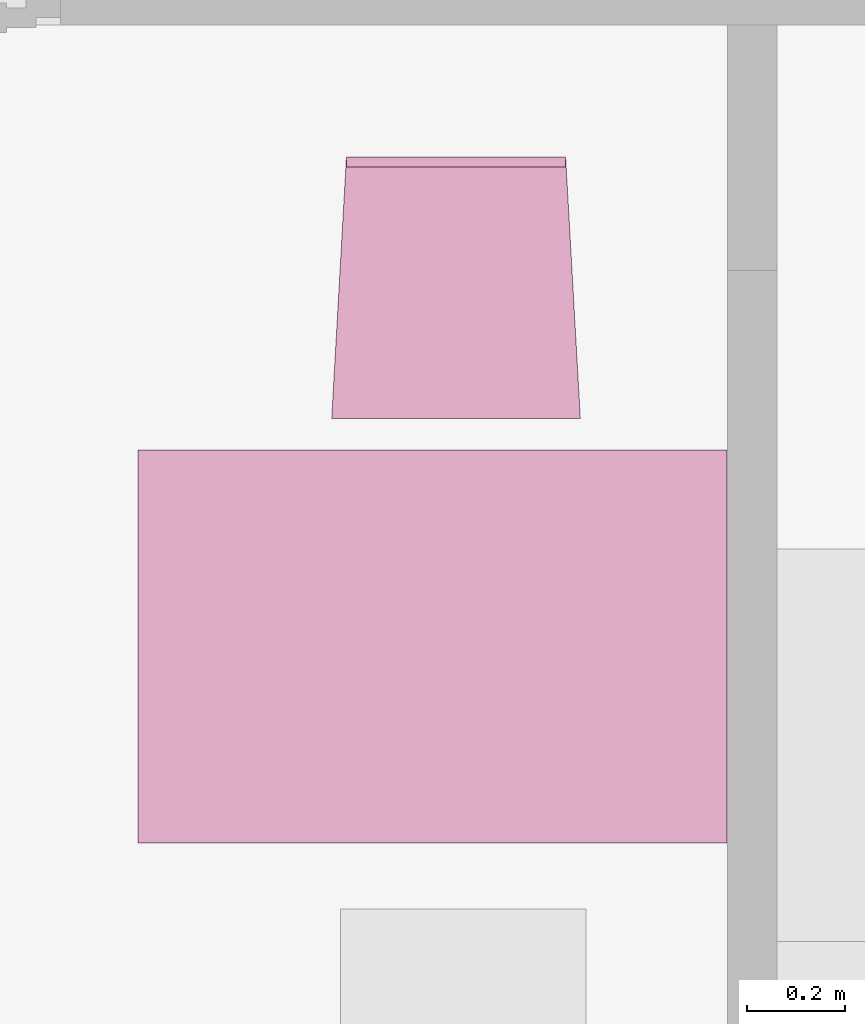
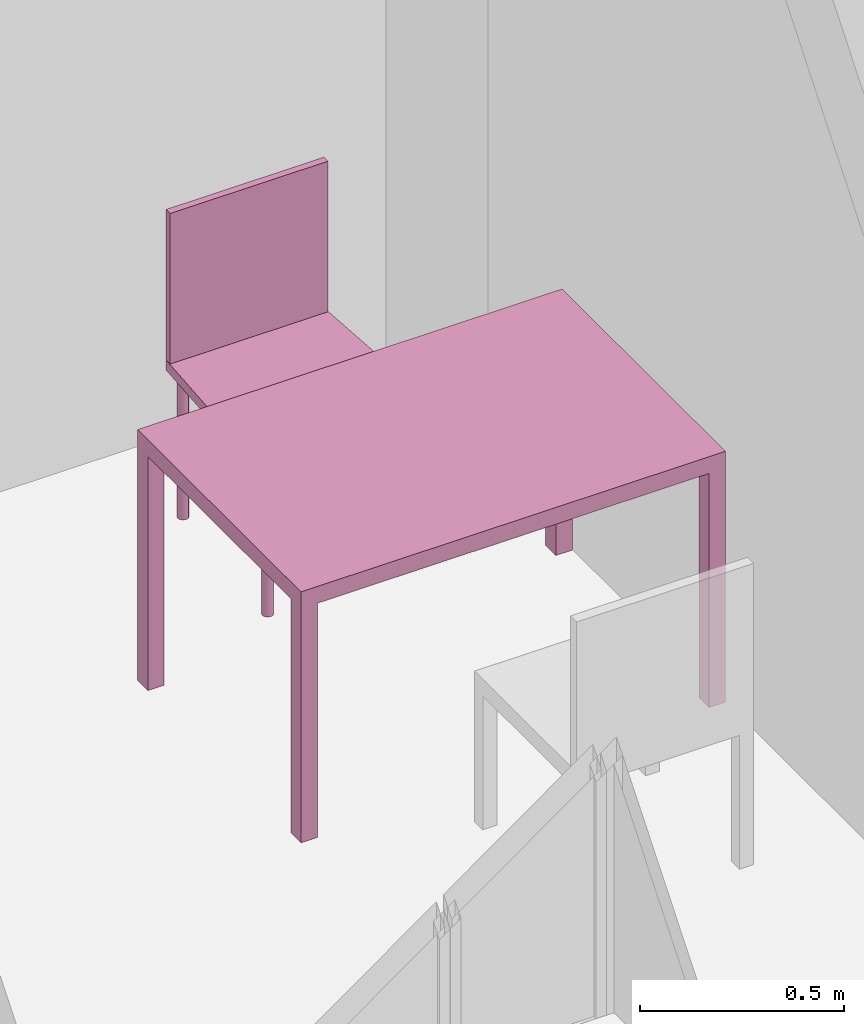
"""IFC4 building model written with IfcOpenShell, lengths in metres."""

from ifc_helpers import new_model, entity, si_unit, converted_unit, derived_unit, frame, origin, place, context, subcontext, project, spatial, faceted_brep, element, save


model = new_model("IFC4")

# Units and contexts
model_context = context("Model", 3, precision=1e-05, world=origin())
body_context = subcontext(model_context, "Body", "Model", "MODEL_VIEW")
ifc_project = project(units=[si_unit("LENGTHUNIT", "METRE"), si_unit("AREAUNIT", "SQUARE_METRE"), si_unit("VOLUMEUNIT", "CUBIC_METRE"), si_unit("MASSUNIT", "GRAM", prefix="KILO"), converted_unit("PLANEANGLEUNIT", "DEGREE", entity("IfcPlaneAngleMeasure", 0.0174532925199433), si_unit("PLANEANGLEUNIT", "RADIAN"), dimensions=[0, 0, 0, 0, 0, 0, 0]), derived_unit("THERMALTRANSMITTANCEUNIT", [(si_unit("POWERUNIT", "WATT"), 1), (si_unit("THERMODYNAMICTEMPERATUREUNIT", "KELVIN"), -1), (si_unit("LENGTHUNIT", "METRE"), -2)]), derived_unit("VOLUMETRICFLOWRATEUNIT", [(si_unit("LENGTHUNIT", "METRE"), 3), (converted_unit("TIMEUNIT", "hour", entity("IfcTimeMeasure", 3600.0), si_unit("TIMEUNIT", "SECOND"), dimensions=[0, 0, 1, 0, 0, 0, 0]), -1), (si_unit("LENGTHUNIT", "METRE"), -1)])], contexts=[model_context])

# Building, storeys
building_placement = place(None, origin())
building = spatial("IfcBuilding", under=ifc_project, at=building_placement, Name="HABITATGE PLURIFAMILIAR", CompositionType="ELEMENT")
storey_1_placement = place(building_placement, frame((0.0, 0.0, 6.25)))
storey_1 = spatial("IfcBuildingStorey", under=building, at=storey_1_placement, Name="PLANTA PRIMERA", CompositionType="ELEMENT", Elevation=6.25)
storey_2_placement = place(storey_1_placement, frame((0.0, 0.0, 3.35)))
storey_2 = spatial("IfcBuildingStorey", under=storey_1, at=storey_2_placement, Name="NOU", CompositionType="PARTIAL")

# Furniture
furniture_1_placement = place(storey_2_placement, frame((407.035747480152, 14.7436930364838, -3.35)))
element("IfcFurniture", 1, at=furniture_1_placement, inside=storey_2, Name="Taula 120X80_P1", context=body_context, shape_type="Brep", body=[
    faceted_brep([(0.0464285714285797, 0.0500000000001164, 0.0), (0.0, 0.0500000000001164, 0.0), (0.0, 0.0, 0.0), (0.0464285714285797, 0.0, 0.0), (0.0464285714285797, 0.0, 0.7), (0.0, 0.0, 0.7), (0.0, 0.0500000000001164, 0.7), (0.0464285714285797, 0.0500000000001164, 0.7)], [[[0, 1, 2, 3]], [[4, 5, 6, 7]], [[3, 4, 7, 0]], [[2, 5, 4, 3]], [[1, 6, 5, 2]], [[0, 7, 6, 1]]], orient=[[False], [False], [False], [False], [False], [False]]),
    faceted_brep([(0.0464285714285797, 0.800069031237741, 0.0), (0.0, 0.800069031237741, 0.0), (0.0, 0.750069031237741, 0.0), (0.0464285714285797, 0.750069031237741, 0.0), (0.0464285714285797, 0.750069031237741, 0.7), (0.0, 0.750069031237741, 0.7), (0.0, 0.800069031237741, 0.7), (0.0464285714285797, 0.800069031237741, 0.7)], [[[0, 1, 2, 3]], [[4, 5, 6, 7]], [[3, 4, 7, 0]], [[2, 5, 4, 3]], [[1, 6, 5, 2]], [[0, 7, 6, 1]]], orient=[[False], [False], [False], [False], [False], [False]]),
    faceted_brep([(1.2, 0.05, 0.0), (1.15357142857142, 0.05, 0.0), (1.15357142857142, 0.0, 0.0), (1.2, 0.0, 0.0), (1.2, 0.0, 0.7), (1.15357142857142, 0.0, 0.7), (1.15357142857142, 0.05, 0.7), (1.2, 0.05, 0.7)], [[[0, 1, 2, 3]], [[4, 5, 6, 7]], [[3, 4, 7, 0]], [[2, 5, 4, 3]], [[1, 6, 5, 2]], [[0, 7, 6, 1]]], orient=[[False], [False], [False], [False], [False], [False]]),
    faceted_brep([(1.2, 0.800069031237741, 0.0), (1.15357142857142, 0.800069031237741, 0.0), (1.15357142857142, 0.750069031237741, 0.0), (1.2, 0.750069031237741, 0.0), (1.2, 0.750069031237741, 0.7), (1.15357142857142, 0.750069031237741, 0.7), (1.15357142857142, 0.800069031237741, 0.7), (1.2, 0.800069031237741, 0.7)], [[[0, 1, 2, 3]], [[4, 5, 6, 7]], [[3, 4, 7, 0]], [[2, 5, 4, 3]], [[1, 6, 5, 2]], [[0, 7, 6, 1]]], orient=[[False], [False], [False], [False], [False], [False]]),
    faceted_brep([(1.2, 0.800069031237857, 0.7), (0.0, 0.800069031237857, 0.7), (0.0, 0.0, 0.7), (1.2, 0.0, 0.7), (1.2, 0.0, 0.75), (0.0, 0.0, 0.75), (0.0, 0.800069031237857, 0.75), (1.2, 0.800069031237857, 0.75)], [[[0, 1, 2, 3]], [[4, 5, 6, 7]], [[3, 4, 7, 0]], [[2, 5, 4, 3]], [[1, 6, 5, 2]], [[0, 7, 6, 1]]], orient=[[False], [False], [False], [False], [False], [False]]),
])
furniture_2_placement = place(storey_2_placement, frame((407.430666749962, 15.6079035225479, -3.35114412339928)))
element("IfcFurniture", 2, at=furniture_2_placement, inside=storey_2, Name="Cadira confient_P1", context=body_context, shape_type="Brep", body=[
    faceted_brep([(0.00928777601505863, 0.0250324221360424, 0.0), (0.0095259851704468, 0.0224394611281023, 0.0), (0.0102108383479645, 0.0199272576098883, 0.0), (0.011321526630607, 0.0175721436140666, 0.0), (0.0128243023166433, 0.0154456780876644, 0.0), (0.0146735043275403, 0.0136124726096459, 0.0), (0.016812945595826, 0.0121282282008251, 0.0), (0.0191776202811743, 0.0110380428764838, 0.0), (0.0216956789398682, 0.0103750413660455, 0.0), (0.0242906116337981, 0.0101593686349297, 0.0), (0.0268835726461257, 0.0103975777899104, 0.0), (0.0293957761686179, 0.0110824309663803, 0.0), (0.0317508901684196, 0.012193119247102, 0.0), (0.0338773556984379, 0.0136958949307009, 0.0), (0.035710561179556, 0.0155450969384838, 0.0), (0.0371948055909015, 0.0176845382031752, 0.0), (0.0382849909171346, 0.0200492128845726, 0.0), (0.0389479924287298, 0.0225672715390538, 0.0), (0.0391636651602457, 0.0251622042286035, 0.0), (0.0389254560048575, 0.0277551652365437, 0.0), (0.0382406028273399, 0.0302673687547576, 0.0), (0.0371299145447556, 0.0326224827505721, 0.0), (0.0356271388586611, 0.0347489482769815, 0.0), (0.0337779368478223, 0.0365821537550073, 0.0), (0.0316384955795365, 0.0380663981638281, 0.0), (0.02927382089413, 0.0391565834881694, 0.0), (0.0267557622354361, 0.0398195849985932, 0.0), (0.0241608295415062, 0.0400352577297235, 0.0), (0.0215678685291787, 0.0397970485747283, 0.0), (0.0190556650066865, 0.0391121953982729, 0.0), (0.016700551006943, 0.0380015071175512, 0.0), (0.0145740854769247, 0.0364987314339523, 0.0), (0.0127408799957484, 0.0346495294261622, 0.0), (0.011256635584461, 0.0325100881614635, 0.0), (0.0101664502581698, 0.0301454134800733, 0.0), (0.00950344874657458, 0.0276273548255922, 0.0), (0.00928777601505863, 0.0250324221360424, 0.448281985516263), (0.00950344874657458, 0.0276273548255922, 0.448281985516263), (0.0101664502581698, 0.0301454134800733, 0.448281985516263), (0.011256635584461, 0.0325100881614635, 0.448281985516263), (0.0127408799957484, 0.0346495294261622, 0.448281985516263), (0.0145740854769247, 0.0364987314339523, 0.448281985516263), (0.016700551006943, 0.0380015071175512, 0.448281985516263), (0.0190556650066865, 0.0391121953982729, 0.448281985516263), (0.0215678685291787, 0.0397970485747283, 0.448281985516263), (0.0241608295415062, 0.0400352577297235, 0.448281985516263), (0.0267557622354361, 0.0398195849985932, 0.448281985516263), (0.02927382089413, 0.0391565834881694, 0.448281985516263), (0.0316384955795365, 0.0380663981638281, 0.448281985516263), (0.0337779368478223, 0.0365821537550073, 0.448281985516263), (0.0356271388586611, 0.0347489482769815, 0.448281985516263), (0.0371299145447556, 0.0326224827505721, 0.448281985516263), (0.0382406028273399, 0.0302673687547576, 0.448281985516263), (0.0389254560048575, 0.0277551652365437, 0.448281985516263), (0.0391636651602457, 0.0251622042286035, 0.448281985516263), (0.0389479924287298, 0.0225672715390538, 0.448281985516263), (0.0382849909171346, 0.0200492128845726, 0.448281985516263), (0.0371948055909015, 0.0176845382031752, 0.448281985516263), (0.035710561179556, 0.0155450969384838, 0.448281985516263), (0.0338773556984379, 0.0136958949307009, 0.448281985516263), (0.0317508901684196, 0.012193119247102, 0.448281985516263), (0.0293957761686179, 0.0110824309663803, 0.448281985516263), (0.0268835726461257, 0.0103975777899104, 0.448281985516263), (0.0242906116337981, 0.0101593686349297, 0.448281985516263), (0.0216956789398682, 0.0103750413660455, 0.448281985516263), (0.0191776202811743, 0.0110380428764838, 0.448281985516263), (0.016812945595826, 0.0121282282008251, 0.448281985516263), (0.0146735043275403, 0.0136124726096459, 0.448281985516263), (0.0128243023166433, 0.0154456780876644, 0.448281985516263), (0.011321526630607, 0.0175721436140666, 0.448281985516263), (0.0102108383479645, 0.0199272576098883, 0.448281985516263), (0.0095259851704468, 0.0224394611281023, 0.448281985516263)], [[[0, 1, 2, 3, 4, 5, 6, 7, 8, 9, 10, 11, 12, 13, 14, 15, 16, 17, 18, 19, 20, 21, 22, 23, 24, 25, 26, 27, 28, 29, 30, 31, 32, 33, 34, 35]], [[36, 37, 38, 39, 40, 41, 42, 43, 44, 45, 46, 47, 48, 49, 50, 51, 52, 53, 54, 55, 56, 57, 58, 59, 60, 61, 62, 63, 64, 65, 66, 67, 68, 69, 70, 71]], [[35, 37, 36, 0]], [[34, 38, 37, 35]], [[33, 39, 38, 34]], [[32, 40, 39, 33]], [[31, 41, 40, 32]], [[30, 42, 41, 31]], [[29, 43, 42, 30]], [[28, 44, 43, 29]], [[27, 45, 44, 28]], [[26, 46, 45, 27]], [[25, 47, 46, 26]], [[24, 48, 47, 25]], [[23, 49, 48, 24]], [[22, 50, 49, 23]], [[21, 51, 50, 22]], [[20, 52, 51, 21]], [[19, 53, 52, 20]], [[18, 54, 53, 19]], [[17, 55, 54, 18]], [[16, 56, 55, 17]], [[15, 57, 56, 16]], [[14, 58, 57, 15]], [[13, 59, 58, 14]], [[12, 60, 59, 13]], [[11, 61, 60, 12]], [[10, 62, 61, 11]], [[9, 63, 62, 10]], [[8, 64, 63, 9]], [[7, 65, 64, 8]], [[6, 66, 65, 7]], [[5, 67, 66, 6]], [[4, 68, 67, 5]], [[3, 69, 68, 4]], [[2, 70, 69, 3]], [[1, 71, 70, 2]], [[0, 36, 71, 1]]], orient=[[False], [False], [False], [False], [False], [False], [False], [False], [False], [False], [False], [False], [False], [False], [False], [False], [False], [False], [False], [False], [False], [False], [False], [False], [False], [False], [False], [False], [False], [False], [False], [False], [False], [False], [False], [False], [False], [False]]),
    faceted_brep([(0.0369257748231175, 0.487439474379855, 0.0), (0.0371639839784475, 0.484846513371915, 0.0), (0.0378488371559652, 0.482334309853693, 0.0), (0.0389595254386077, 0.479979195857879, 0.0), (0.040462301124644, 0.477852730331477, 0.0), (0.042311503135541, 0.476019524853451, 0.0), (0.0444509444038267, 0.47453528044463, 0.0), (0.046815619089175, 0.473445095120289, 0.0), (0.0493336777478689, 0.472782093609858, 0.0), (0.0519286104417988, 0.472566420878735, 0.0), (0.0545215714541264, 0.47280463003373, 0.0), (0.0570337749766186, 0.473489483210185, 0.0), (0.0593888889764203, 0.474600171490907, 0.0), (0.0615153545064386, 0.476102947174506, 0.0), (0.0633485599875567, 0.477952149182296, 0.0), (0.0648328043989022, 0.480091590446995, 0.0), (0.0659229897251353, 0.482456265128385, 0.0), (0.0665859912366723, 0.484974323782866, 0.0), (0.0668016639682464, 0.487569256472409, 0.0), (0.0665634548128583, 0.490162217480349, 0.0), (0.0658786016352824, 0.49267442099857, 0.0), (0.0647679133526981, 0.495029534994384, 0.0), (0.0632651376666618, 0.497156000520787, 0.0), (0.0614159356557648, 0.498989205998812, 0.0), (0.059276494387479, 0.500473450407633, 0.0), (0.0569118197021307, 0.501563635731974, 0.0), (0.0543937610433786, 0.502226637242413, 0.0), (0.0517988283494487, 0.502442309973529, 0.0), (0.0492058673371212, 0.502204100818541, 0.0), (0.0466936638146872, 0.501519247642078, 0.0), (0.0443385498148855, 0.500408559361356, 0.0), (0.0422120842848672, 0.498905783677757, 0.0), (0.0403788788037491, 0.497056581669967, 0.0), (0.0388946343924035, 0.494917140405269, 0.0), (0.0378044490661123, 0.492552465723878, 0.0), (0.0371414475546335, 0.490034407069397, 0.0), (0.0369257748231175, 0.487439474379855, 0.448281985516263), (0.0371414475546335, 0.490034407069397, 0.448281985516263), (0.0378044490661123, 0.492552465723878, 0.448281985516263), (0.0388946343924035, 0.494917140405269, 0.448281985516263), (0.0403788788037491, 0.497056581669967, 0.448281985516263), (0.0422120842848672, 0.498905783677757, 0.448281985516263), (0.0443385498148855, 0.500408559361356, 0.448281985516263), (0.0466936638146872, 0.501519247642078, 0.448281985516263), (0.0492058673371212, 0.502204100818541, 0.448281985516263), (0.0517988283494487, 0.502442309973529, 0.448281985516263), (0.0543937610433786, 0.502226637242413, 0.448281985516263), (0.0569118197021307, 0.501563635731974, 0.448281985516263), (0.059276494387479, 0.500473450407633, 0.448281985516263), (0.0614159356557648, 0.498989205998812, 0.448281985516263), (0.0632651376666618, 0.497156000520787, 0.448281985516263), (0.0647679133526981, 0.495029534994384, 0.448281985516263), (0.0658786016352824, 0.49267442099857, 0.448281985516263), (0.0665634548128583, 0.490162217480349, 0.448281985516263), (0.0668016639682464, 0.487569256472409, 0.448281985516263), (0.0665859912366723, 0.484974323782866, 0.448281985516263), (0.0659229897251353, 0.482456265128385, 0.448281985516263), (0.0648328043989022, 0.480091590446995, 0.448281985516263), (0.0633485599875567, 0.477952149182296, 0.448281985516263), (0.0615153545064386, 0.476102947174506, 0.448281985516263), (0.0593888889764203, 0.474600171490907, 0.448281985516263), (0.0570337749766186, 0.473489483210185, 0.448281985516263), (0.0545215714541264, 0.47280463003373, 0.448281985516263), (0.0519286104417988, 0.472566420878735, 0.448281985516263), (0.0493336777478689, 0.472782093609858, 0.448281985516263), (0.046815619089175, 0.473445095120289, 0.448281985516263), (0.0444509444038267, 0.47453528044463, 0.448281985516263), (0.042311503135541, 0.476019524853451, 0.448281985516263), (0.040462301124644, 0.477852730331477, 0.448281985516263), (0.0389595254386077, 0.479979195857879, 0.448281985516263), (0.0378488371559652, 0.482334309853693, 0.448281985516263), (0.0371639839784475, 0.484846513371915, 0.448281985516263)], [[[0, 1, 2, 3, 4, 5, 6, 7, 8, 9, 10, 11, 12, 13, 14, 15, 16, 17, 18, 19, 20, 21, 22, 23, 24, 25, 26, 27, 28, 29, 30, 31, 32, 33, 34, 35]], [[36, 37, 38, 39, 40, 41, 42, 43, 44, 45, 46, 47, 48, 49, 50, 51, 52, 53, 54, 55, 56, 57, 58, 59, 60, 61, 62, 63, 64, 65, 66, 67, 68, 69, 70, 71]], [[35, 37, 36, 0]], [[34, 38, 37, 35]], [[33, 39, 38, 34]], [[32, 40, 39, 33]], [[31, 41, 40, 32]], [[30, 42, 41, 31]], [[29, 43, 42, 30]], [[28, 44, 43, 29]], [[27, 45, 44, 28]], [[26, 46, 45, 27]], [[25, 47, 46, 26]], [[24, 48, 47, 25]], [[23, 49, 48, 24]], [[22, 50, 49, 23]], [[21, 51, 50, 22]], [[20, 52, 51, 21]], [[19, 53, 52, 20]], [[18, 54, 53, 19]], [[17, 55, 54, 18]], [[16, 56, 55, 17]], [[15, 57, 56, 16]], [[14, 58, 57, 15]], [[13, 59, 58, 14]], [[12, 60, 59, 13]], [[11, 61, 60, 12]], [[10, 62, 61, 11]], [[9, 63, 62, 10]], [[8, 64, 63, 9]], [[7, 65, 64, 8]], [[6, 66, 65, 7]], [[5, 67, 66, 6]], [[4, 68, 67, 5]], [[3, 69, 68, 4]], [[2, 70, 69, 3]], [[1, 71, 70, 2]], [[0, 36, 71, 1]]], orient=[[False], [False], [False], [False], [False], [False], [False], [False], [False], [False], [False], [False], [False], [False], [False], [False], [False], [False], [False], [False], [False], [False], [False], [False], [False], [False], [False], [False], [False], [False], [False], [False], [False], [False], [False], [False], [False], [False]]),
    faceted_brep([(0.469287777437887, 0.0250324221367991, 0.0), (0.469525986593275, 0.022439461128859, 0.0), (0.470210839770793, 0.0199272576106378, 0.0), (0.471321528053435, 0.0175721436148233, 0.0), (0.472824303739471, 0.0154456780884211, 0.0), (0.474673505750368, 0.0136124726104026, 0.0), (0.476812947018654, 0.0121282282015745, 0.0), (0.479177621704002, 0.0110380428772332, 0.0), (0.481695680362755, 0.0103750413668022, 0.0), (0.484290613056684, 0.0101593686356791, 0.0), (0.486883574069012, 0.0103975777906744, 0.0), (0.489395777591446, 0.0110824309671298, 0.0), (0.491750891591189, 0.0121931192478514, 0.0), (0.493877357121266, 0.0136958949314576, 0.0), (0.495710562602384, 0.0155450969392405, 0.0), (0.49719480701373, 0.0176845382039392, 0.0), (0.498284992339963, 0.0200492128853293, 0.0), (0.498947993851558, 0.0225672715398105, 0.0), (0.499163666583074, 0.0251622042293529, 0.0), (0.498925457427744, 0.0277551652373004, 0.0), (0.498240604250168, 0.0302673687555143, 0.0), (0.497129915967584, 0.0326224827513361, 0.0), (0.495627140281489, 0.0347489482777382, 0.0), (0.49377793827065, 0.0365821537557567, 0.0), (0.491638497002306, 0.0380663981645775, 0.0), (0.489273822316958, 0.0391565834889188, 0.0), (0.486755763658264, 0.0398195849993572, 0.0), (0.484160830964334, 0.040035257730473, 0.0), (0.481567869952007, 0.039797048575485, 0.0), (0.479055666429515, 0.0391121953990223, 0.0), (0.476700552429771, 0.0380015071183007, 0.0), (0.474574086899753, 0.0364987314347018, 0.0), (0.472740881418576, 0.0346495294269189, 0.0), (0.471256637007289, 0.0325100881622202, 0.0), (0.470166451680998, 0.0301454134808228, 0.0), (0.469503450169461, 0.0276273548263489, 0.0), (0.469287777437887, 0.0250324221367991, 0.448281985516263), (0.469503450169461, 0.0276273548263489, 0.448281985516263), (0.470166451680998, 0.0301454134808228, 0.448281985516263), (0.471256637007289, 0.0325100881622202, 0.448281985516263), (0.472740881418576, 0.0346495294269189, 0.448281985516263), (0.474574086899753, 0.0364987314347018, 0.448281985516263), (0.476700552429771, 0.0380015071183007, 0.448281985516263), (0.479055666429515, 0.0391121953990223, 0.448281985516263), (0.481567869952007, 0.039797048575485, 0.448281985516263), (0.484160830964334, 0.040035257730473, 0.448281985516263), (0.486755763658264, 0.0398195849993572, 0.448281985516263), (0.489273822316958, 0.0391565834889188, 0.448281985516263), (0.491638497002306, 0.0380663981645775, 0.448281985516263), (0.49377793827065, 0.0365821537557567, 0.448281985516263), (0.495627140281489, 0.0347489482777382, 0.448281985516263), (0.497129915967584, 0.0326224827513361, 0.448281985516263), (0.498240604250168, 0.0302673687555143, 0.448281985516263), (0.498925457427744, 0.0277551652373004, 0.448281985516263), (0.499163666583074, 0.0251622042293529, 0.448281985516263), (0.498947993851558, 0.0225672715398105, 0.448281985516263), (0.498284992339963, 0.0200492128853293, 0.448281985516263), (0.49719480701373, 0.0176845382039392, 0.448281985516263), (0.495710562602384, 0.0155450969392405, 0.448281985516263), (0.493877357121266, 0.0136958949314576, 0.448281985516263), (0.491750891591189, 0.0121931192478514, 0.448281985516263), (0.489395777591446, 0.0110824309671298, 0.448281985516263), (0.486883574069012, 0.0103975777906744, 0.448281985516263), (0.484290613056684, 0.0101593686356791, 0.448281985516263), (0.481695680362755, 0.0103750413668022, 0.448281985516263), (0.479177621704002, 0.0110380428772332, 0.448281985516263), (0.476812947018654, 0.0121282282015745, 0.448281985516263), (0.474673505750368, 0.0136124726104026, 0.448281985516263), (0.472824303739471, 0.0154456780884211, 0.448281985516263), (0.471321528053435, 0.0175721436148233, 0.448281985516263), (0.470210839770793, 0.0199272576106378, 0.448281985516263), (0.469525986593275, 0.022439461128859, 0.448281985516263)], [[[0, 1, 2, 3, 4, 5, 6, 7, 8, 9, 10, 11, 12, 13, 14, 15, 16, 17, 18, 19, 20, 21, 22, 23, 24, 25, 26, 27, 28, 29, 30, 31, 32, 33, 34, 35]], [[36, 37, 38, 39, 40, 41, 42, 43, 44, 45, 46, 47, 48, 49, 50, 51, 52, 53, 54, 55, 56, 57, 58, 59, 60, 61, 62, 63, 64, 65, 66, 67, 68, 69, 70, 71]], [[35, 37, 36, 0]], [[34, 38, 37, 35]], [[33, 39, 38, 34]], [[32, 40, 39, 33]], [[31, 41, 40, 32]], [[30, 42, 41, 31]], [[29, 43, 42, 30]], [[28, 44, 43, 29]], [[27, 45, 44, 28]], [[26, 46, 45, 27]], [[25, 47, 46, 26]], [[24, 48, 47, 25]], [[23, 49, 48, 24]], [[22, 50, 49, 23]], [[21, 51, 50, 22]], [[20, 52, 51, 21]], [[19, 53, 52, 20]], [[18, 54, 53, 19]], [[17, 55, 54, 18]], [[16, 56, 55, 17]], [[15, 57, 56, 16]], [[14, 58, 57, 15]], [[13, 59, 58, 14]], [[12, 60, 59, 13]], [[11, 61, 60, 12]], [[10, 62, 61, 11]], [[9, 63, 62, 10]], [[8, 64, 63, 9]], [[7, 65, 64, 8]], [[6, 66, 65, 7]], [[5, 67, 66, 6]], [[4, 68, 67, 5]], [[3, 69, 68, 4]], [[2, 70, 69, 3]], [[1, 71, 70, 2]], [[0, 36, 71, 1]]], orient=[[False], [False], [False], [False], [False], [False], [False], [False], [False], [False], [False], [False], [False], [False], [False], [False], [False], [False], [False], [False], [False], [False], [False], [False], [False], [False], [False], [False], [False], [False], [False], [False], [False], [False], [False], [False], [False], [False]]),
    faceted_brep([(0.436925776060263, 0.487439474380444, 0.0), (0.437163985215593, 0.484846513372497, 0.0), (0.437848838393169, 0.48233430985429, 0.0), (0.438959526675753, 0.479979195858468, 0.0), (0.440462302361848, 0.477852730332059, 0.0), (0.442311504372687, 0.47601952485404, 0.0), (0.444450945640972, 0.474535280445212, 0.0), (0.446815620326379, 0.473445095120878, 0.0), (0.449333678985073, 0.472782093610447, 0.0), (0.451928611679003, 0.472566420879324, 0.0), (0.454521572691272, 0.472804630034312, 0.0), (0.457033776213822, 0.473489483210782, 0.0), (0.459388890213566, 0.474600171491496, 0.0), (0.461515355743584, 0.476102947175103, 0.0), (0.46334856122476, 0.477952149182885, 0.0), (0.464832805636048, 0.480091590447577, 0.0), (0.465922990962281, 0.482456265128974, 0.0), (0.466585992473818, 0.484974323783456, 0.0), (0.466801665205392, 0.487569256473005, 0.0), (0.466563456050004, 0.490162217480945, 0.0), (0.465878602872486, 0.492674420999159, 0.0), (0.464767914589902, 0.495029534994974, 0.0), (0.463265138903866, 0.497156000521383, 0.0), (0.46141593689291, 0.498989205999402, 0.0), (0.459276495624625, 0.50047345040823, 0.0), (0.456911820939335, 0.501563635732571, 0.0), (0.454393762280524, 0.502226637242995, 0.0), (0.451798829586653, 0.502442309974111, 0.0), (0.449205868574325, 0.50220410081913, 0.0), (0.446693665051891, 0.501519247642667, 0.0), (0.444338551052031, 0.500408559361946, 0.0), (0.442212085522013, 0.498905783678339, 0.0), (0.440378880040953, 0.497056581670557, 0.0), (0.438894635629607, 0.494917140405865, 0.0), (0.437804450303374, 0.492552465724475, 0.0), (0.437141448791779, 0.490034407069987, 0.0), (0.436925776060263, 0.487439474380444, 0.448281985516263), (0.437141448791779, 0.490034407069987, 0.448281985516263), (0.437804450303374, 0.492552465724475, 0.448281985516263), (0.438894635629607, 0.494917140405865, 0.448281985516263), (0.440378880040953, 0.497056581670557, 0.448281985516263), (0.442212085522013, 0.498905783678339, 0.448281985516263), (0.444338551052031, 0.500408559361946, 0.448281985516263), (0.446693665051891, 0.501519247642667, 0.448281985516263), (0.449205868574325, 0.50220410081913, 0.448281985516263), (0.451798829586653, 0.502442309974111, 0.448281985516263), (0.454393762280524, 0.502226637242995, 0.448281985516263), (0.456911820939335, 0.501563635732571, 0.448281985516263), (0.459276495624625, 0.50047345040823, 0.448281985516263), (0.46141593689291, 0.498989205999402, 0.448281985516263), (0.463265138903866, 0.497156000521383, 0.448281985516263), (0.464767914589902, 0.495029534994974, 0.448281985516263), (0.465878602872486, 0.492674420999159, 0.448281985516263), (0.466563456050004, 0.490162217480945, 0.448281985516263), (0.466801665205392, 0.487569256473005, 0.448281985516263), (0.466585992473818, 0.484974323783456, 0.448281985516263), (0.465922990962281, 0.482456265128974, 0.448281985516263), (0.464832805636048, 0.480091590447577, 0.448281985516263), (0.46334856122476, 0.477952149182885, 0.448281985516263), (0.461515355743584, 0.476102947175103, 0.448281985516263), (0.459388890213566, 0.474600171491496, 0.448281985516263), (0.457033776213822, 0.473489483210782, 0.448281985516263), (0.454521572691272, 0.472804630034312, 0.448281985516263), (0.451928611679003, 0.472566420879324, 0.448281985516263), (0.449333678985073, 0.472782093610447, 0.448281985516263), (0.446815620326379, 0.473445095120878, 0.448281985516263), (0.444450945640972, 0.474535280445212, 0.448281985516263), (0.442311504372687, 0.47601952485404, 0.448281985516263), (0.440462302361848, 0.477852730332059, 0.448281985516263), (0.438959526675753, 0.479979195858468, 0.448281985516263), (0.437848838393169, 0.48233430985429, 0.448281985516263), (0.437163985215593, 0.484846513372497, 0.448281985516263)], [[[0, 1, 2, 3, 4, 5, 6, 7, 8, 9, 10, 11, 12, 13, 14, 15, 16, 17, 18, 19, 20, 21, 22, 23, 24, 25, 26, 27, 28, 29, 30, 31, 32, 33, 34, 35]], [[36, 37, 38, 39, 40, 41, 42, 43, 44, 45, 46, 47, 48, 49, 50, 51, 52, 53, 54, 55, 56, 57, 58, 59, 60, 61, 62, 63, 64, 65, 66, 67, 68, 69, 70, 71]], [[35, 37, 36, 0]], [[34, 38, 37, 35]], [[33, 39, 38, 34]], [[32, 40, 39, 33]], [[31, 41, 40, 32]], [[30, 42, 41, 31]], [[29, 43, 42, 30]], [[28, 44, 43, 29]], [[27, 45, 44, 28]], [[26, 46, 45, 27]], [[25, 47, 46, 26]], [[24, 48, 47, 25]], [[23, 49, 48, 24]], [[22, 50, 49, 23]], [[21, 51, 50, 22]], [[20, 52, 51, 21]], [[19, 53, 52, 20]], [[18, 54, 53, 19]], [[17, 55, 54, 18]], [[16, 56, 55, 17]], [[15, 57, 56, 16]], [[14, 58, 57, 15]], [[13, 59, 58, 14]], [[12, 60, 59, 13]], [[11, 61, 60, 12]], [[10, 62, 61, 11]], [[9, 63, 62, 10]], [[8, 64, 63, 9]], [[7, 65, 64, 8]], [[6, 66, 65, 7]], [[5, 67, 66, 6]], [[4, 68, 67, 5]], [[3, 69, 68, 4]], [[2, 70, 69, 3]], [[1, 71, 70, 2]], [[0, 36, 71, 1]]], orient=[[False], [False], [False], [False], [False], [False], [False], [False], [False], [False], [False], [False], [False], [False], [False], [False], [False], [False], [False], [False], [False], [False], [False], [False], [False], [False], [False], [False], [False], [False], [False], [False], [False], [False], [False], [False], [False], [False]]),
    faceted_brep([(0.476514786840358, 0.532607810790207, 0.418281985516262), (0.0300000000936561, 0.532607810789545, 0.418281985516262), (0.0, 0.0, 0.418281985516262), (0.506514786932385, 0.0, 0.418281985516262), (0.506514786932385, 0.0, 0.448281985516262), (0.0, 0.0, 0.448281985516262), (0.0300000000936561, 0.532607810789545, 0.448281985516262), (0.476514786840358, 0.532607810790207, 0.448281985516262)], [[[0, 1, 2, 3]], [[4, 5, 6, 7]], [[3, 4, 7, 0]], [[2, 5, 4, 3]], [[1, 6, 5, 2]], [[0, 7, 6, 1]]], orient=[[False], [False], [False], [False], [False], [False]]),
    faceted_brep([(0.476514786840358, 0.512607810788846, 0.448281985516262), (0.476514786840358, 0.532607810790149, 0.448281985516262), (0.0300000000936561, 0.532607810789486, 0.448281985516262), (0.0300000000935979, 0.512607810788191, 0.448281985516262), (0.0300000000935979, 0.512607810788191, 0.898281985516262), (0.0300000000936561, 0.532607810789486, 0.898281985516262), (0.476514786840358, 0.532607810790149, 0.898281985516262), (0.476514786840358, 0.512607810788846, 0.898281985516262)], [[[0, 1, 2, 3]], [[4, 5, 6, 7]], [[3, 4, 7, 0]], [[2, 5, 4, 3]], [[1, 6, 5, 2]], [[0, 7, 6, 1]]], orient=[[False], [False], [False], [False], [False], [False]]),
])

save(model, "model.ifc")
